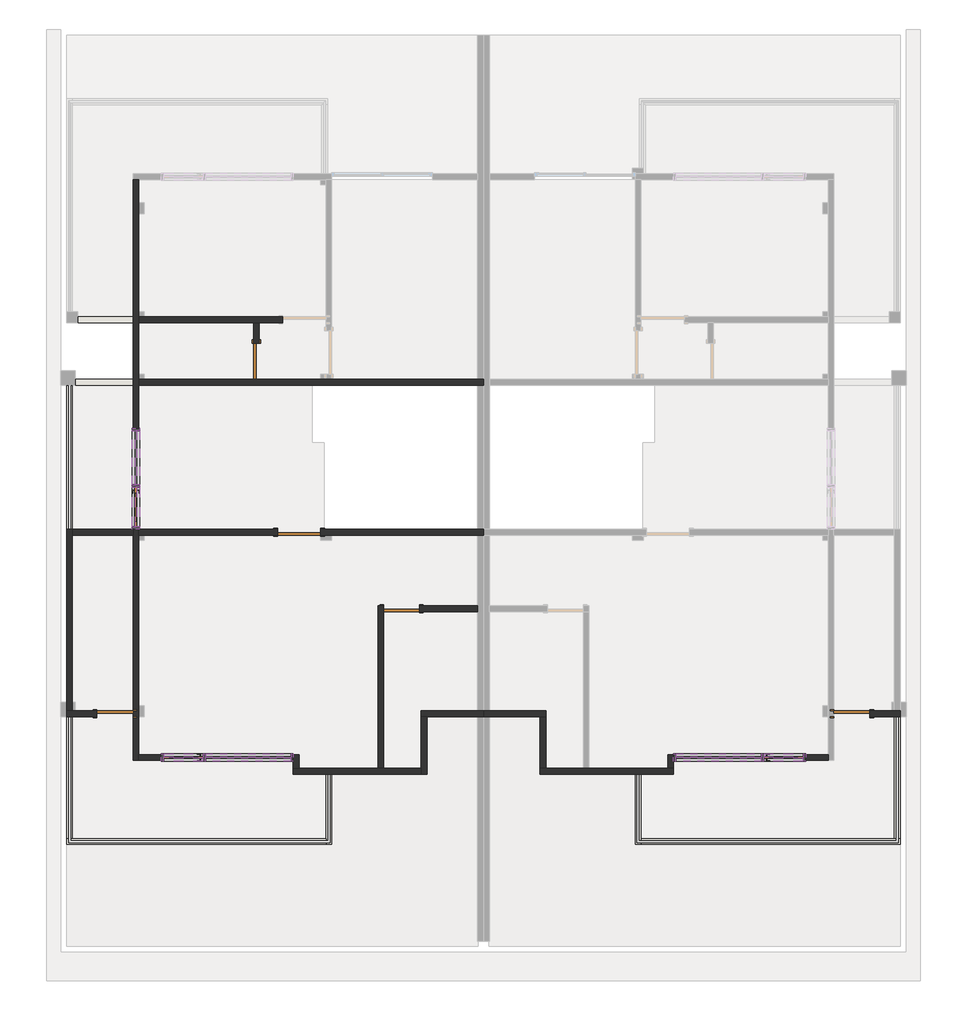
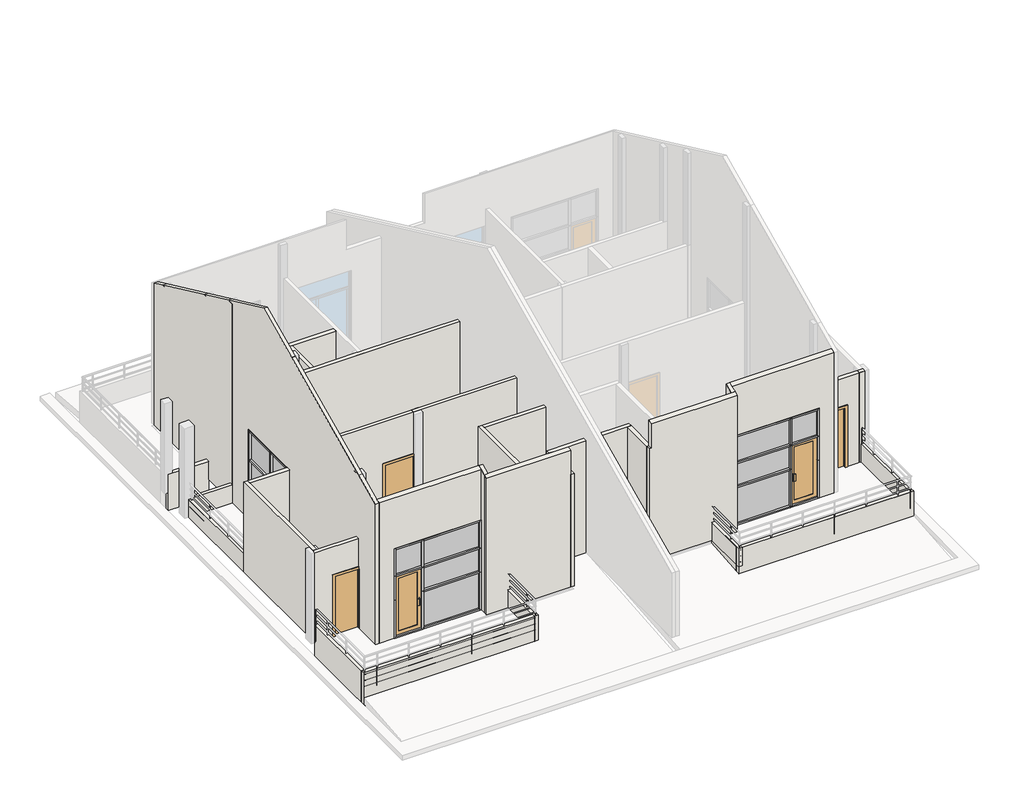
# One storey, part 1 of 6: 44 members, 33 walls, 11 plates, 8 doors.
"""IFC4 building model written with IfcOpenShell, lengths in millimetres."""

from ifc_helpers import new_model, si_unit, frame, origin, place, context, project, spatial, polyline, outline, extrude, faceted_brep, transform, mapped, element, save
from components import m1_203bd3fe, m3_b9aba31e, m3_11f5f102, mlc4_8405c642, mlc4_63d6f031, mlc5_c38d646a, member_50_x_150mm_d1afb885, member_50_x_150mm_4883e7f1, member_50_x_150mm_9c26cac3, member_50_x_150mm_dc49d761, member_50_x_150mm_ee2168e0, member_50_x_150mm_479bf81d, member_50_x_150mm_3493d22a, member_50_x_150mm_14f10ac7, member_50_x_150mm_886af683, member_50_x_150mm_6ffebc0f, member_50_x_150mm_60451361, member_50_x_150mm_3a148f0f, member_50_x_150mm_f0098caa, member_50_x_150mm_bbc1c4ea, member_50_x_150mm_eeb88b28, member_50_x_150mm_aa47fe12, plate_036381eb, plate_f968a0e6, plate_c850eb1c, plate_985eec47, plate_60d2a096, plate_dccf6ea0, plate_e95abe67

model = new_model("IFC4")

# Units and contexts
model_context = context("Model", 3, world=origin())
ifc_project = project(units=[si_unit("LENGTHUNIT", "METRE", prefix="MILLI")], contexts=[model_context])

# Site, building, storey
site = spatial("IfcSite", under=ifc_project)
building = spatial("IfcBuilding", under=site)
storey = spatial("IfcBuildingStorey", under=building, Name="标高 2", Elevation=3900.0)

# Doors
placement = place(None, origin())
m1_shape = m1_203bd3fe(model_context)
element("IfcDoor", 1, ObjectType="单扇 - 与墙齐 : M1", at=placement, inside=storey, context=model_context, shape_type="MappedRepresentation", body=[
    mapped(m1_shape, transform((-2985.3991115, 3511.4406182, 3900.0), x_axis=(1.0, 0.0, 0.0), y_axis=(0.0, 1.0, 0.0), z_axis=(0.0, 0.0, 1.0))),
])
m3_shape = m3_b9aba31e(model_context)
element("IfcDoor", 2, ObjectType="单扇 - 与墙齐 : M3", at=placement, inside=storey, context=model_context, shape_type="MappedRepresentation", body=[
    mapped(m3_shape, transform((-850.3991115, 1916.4406182, 3900.0), x_axis=(-1.0, 0.0, 0.0), y_axis=(0.0, -1.0, 0.0), z_axis=(0.0, 0.0, 1.0))),
])
element("IfcDoor", 3, ObjectType="单扇 - 与墙齐 : M3", at=placement, inside=storey, context=model_context, shape_type="MappedRepresentation", body=[
    mapped(m3_shape, transform((-6820.3991115, -268.5593818, 3900.0), x_axis=(1.0, 0.0, 0.0), y_axis=(0.0, 1.0, 0.0), z_axis=(0.0, 0.0, 1.0))),
])
m3_2_shape = m3_11f5f102(model_context)
element("IfcDoor", 4, ObjectType="单扇 - 与墙齐 : M3", at=placement, inside=storey, context=model_context, shape_type="MappedRepresentation", body=[
    mapped(m3_2_shape, transform((-3875.3991115, 7066.4406182, 3900.0), x_axis=(0.0, -1.0, 0.0), y_axis=(1.0, 0.0, 0.0), z_axis=(0.0, 0.0, 1.0))),
])
element("IfcDoor", 5, ObjectType="单扇 - 与墙齐 : M3", at=placement, inside=storey, context=model_context, shape_type="MappedRepresentation", body=[
    mapped(m3_2_shape, transform((8529.6008885, -268.5593818, 3900.0), x_axis=(-1.0, 0.0, 0.0), y_axis=(0.0, -1.0, 0.0), z_axis=(0.0, 0.0, 1.0))),
])
mlc4_shape = mlc4_8405c642(model_context)
element("IfcDoor", 6, ObjectType="门嵌板_单开门2 : MLC4", at=placement, inside=storey, context=model_context, shape_type="MappedRepresentation", body=[
    mapped(mlc4_shape, transform((-5392.8991115, -1178.5593818, 3950.0), x_axis=(-1.0, 0.0, 0.0), y_axis=(0.0, -1.0, 0.0), z_axis=(0.0, 0.0, 1.0))),
])
mlc4_2_shape = mlc4_63d6f031(model_context)
element("IfcDoor", 7, ObjectType="门嵌板_单开门2 : MLC4", at=placement, inside=storey, context=model_context, shape_type="MappedRepresentation", body=[
    mapped(mlc4_2_shape, transform((7102.1008885, -1178.5593818, 3950.0), x_axis=(1.0, 0.0, 0.0), y_axis=(0.0, 1.0, 0.0), z_axis=(0.0, 0.0, 1.0))),
])
mlc5_shape = mlc5_c38d646a(model_context)
element("IfcDoor", 8, ObjectType="门嵌板_单开门2 : MLC5", at=placement, inside=storey, context=model_context, shape_type="MappedRepresentation", body=[
    mapped(mlc5_shape, transform((-6385.3991115, 4033.9406182, 3950.0), x_axis=(0.0, -1.0, 0.0), y_axis=(1.0, 0.0, 0.0), z_axis=(0.0, 0.0, 1.0))),
])

# Members
member_50_x_150mm_shape = member_50_x_150mm_d1afb885(model_context)
element("IfcMember", 9, ObjectType="矩形竖梃 : 50 x 150mm", at=placement, inside=storey, context=model_context, shape_type="MappedRepresentation", body=[
    mapped(member_50_x_150mm_shape, transform((-3155.3991115, -1178.5593818, 6900.0), x_axis=(0.0, 0.0, 1.0), y_axis=(0.0, -1.0, 0.0), z_axis=(1.0, 0.0, 0.0))),
])
member_50_x_150mm_2_shape = member_50_x_150mm_4883e7f1(model_context)
element("IfcMember", 10, ObjectType="矩形竖梃 : 50 x 150mm", at=placement, inside=storey, context=model_context, shape_type="MappedRepresentation", body=[
    mapped(member_50_x_150mm_2_shape, transform((-5805.3991115, -1178.5593818, 3900.0), x_axis=(0.0, 0.0, -1.0), y_axis=(0.0, -1.0, 0.0), z_axis=(-1.0, 0.0, 0.0))),
])
element("IfcMember", 11, ObjectType="矩形竖梃 : 50 x 150mm", at=placement, inside=storey, context=model_context, shape_type="MappedRepresentation", body=[
    mapped(member_50_x_150mm_2_shape, transform((-6385.3991115, 3621.4406182, 3900.0), x_axis=(0.0, 0.0, -1.0), y_axis=(1.0, 0.0, 0.0), z_axis=(0.0, -1.0, 0.0))),
])
member_50_x_150mm_3_shape = member_50_x_150mm_9c26cac3(model_context)
element("IfcMember", 12, ObjectType="矩形竖梃 : 50 x 150mm", at=placement, inside=storey, context=model_context, shape_type="MappedRepresentation", body=[
    mapped(member_50_x_150mm_3_shape, transform((-4980.3991115, -1178.5593818, 5976.0), x_axis=(0.0, 0.0, 1.0), y_axis=(0.0, -1.0, 0.0), z_axis=(1.0, 0.0, 0.0))),
])
element("IfcMember", 13, ObjectType="矩形竖梃 : 50 x 150mm", at=placement, inside=storey, context=model_context, shape_type="MappedRepresentation", body=[
    mapped(member_50_x_150mm_3_shape, transform((-6385.3991115, 4446.4406182, 5900.0), x_axis=(0.0, 0.0, 1.0), y_axis=(1.0, 0.0, 0.0), z_axis=(0.0, 1.0, 0.0))),
])
member_50_x_150mm_4_shape = member_50_x_150mm_dc49d761(model_context)
element("IfcMember", 14, ObjectType="矩形竖梃 : 50 x 150mm", at=placement, inside=storey, context=model_context, shape_type="MappedRepresentation", body=[
    mapped(member_50_x_150mm_4_shape, transform((-3155.3991115, -1178.5593818, 5976.0), x_axis=(0.0, 0.0, 1.0), y_axis=(0.0, -1.0, 0.0), z_axis=(1.0, 0.0, 0.0))),
])
element("IfcMember", 15, ObjectType="矩形竖梃 : 50 x 150mm", at=placement, inside=storey, context=model_context, shape_type="MappedRepresentation", body=[
    mapped(member_50_x_150mm_4_shape, transform((-3155.3991115, -1178.5593818, 5176.0), x_axis=(0.0, 0.0, 1.0), y_axis=(0.0, -1.0, 0.0), z_axis=(1.0, 0.0, 0.0))),
])
element("IfcMember", 16, ObjectType="矩形竖梃 : 50 x 150mm", at=placement, inside=storey, context=model_context, shape_type="MappedRepresentation", body=[
    mapped(member_50_x_150mm_shape, transform((-4930.3991115, -1178.5593818, 3900.0), x_axis=(0.0, 0.0, -1.0), y_axis=(0.0, -1.0, 0.0), z_axis=(-1.0, 0.0, 0.0))),
])
element("IfcMember", 17, ObjectType="矩形竖梃 : 50 x 150mm", at=placement, inside=storey, context=model_context, shape_type="MappedRepresentation", body=[
    mapped(member_50_x_150mm_2_shape, transform((-4980.3991115, -1178.5593818, 6900.0), x_axis=(0.0, 0.0, 1.0), y_axis=(0.0, -1.0, 0.0), z_axis=(1.0, 0.0, 0.0))),
])
element("IfcMember", 18, ObjectType="矩形竖梃 : 50 x 150mm", at=placement, inside=storey, context=model_context, shape_type="MappedRepresentation", body=[
    mapped(member_50_x_150mm_2_shape, transform((-6385.3991115, 4446.4406182, 6900.0), x_axis=(0.0, 0.0, 1.0), y_axis=(1.0, 0.0, 0.0), z_axis=(0.0, 1.0, 0.0))),
])
member_50_x_150mm_5_shape = member_50_x_150mm_ee2168e0(model_context)
element("IfcMember", 19, ObjectType="矩形竖梃 : 50 x 150mm", at=placement, inside=storey, context=model_context, shape_type="MappedRepresentation", body=[
    mapped(member_50_x_150mm_5_shape, transform((-4955.3991115, -1178.5593818, 5976.0), x_axis=(1.0, 0.0, 0.0), y_axis=(0.0, -1.0, 0.0), z_axis=(0.0, 0.0, -1.0))),
])
member_50_x_150mm_6_shape = member_50_x_150mm_479bf81d(model_context)
element("IfcMember", 20, ObjectType="矩形竖梃 : 50 x 150mm", at=placement, inside=storey, context=model_context, shape_type="MappedRepresentation", body=[
    mapped(member_50_x_150mm_6_shape, transform((-5855.3991115, -1178.5593818, 6900.0), x_axis=(-1.0, 0.0, 0.0), y_axis=(0.0, -1.0, 0.0), z_axis=(0.0, 0.0, 1.0))),
])
element("IfcMember", 21, ObjectType="矩形竖梃 : 50 x 150mm", at=placement, inside=storey, context=model_context, shape_type="MappedRepresentation", body=[
    mapped(member_50_x_150mm_6_shape, transform((-3105.3991115, -1178.5593818, 5976.0), x_axis=(1.0, 0.0, 0.0), y_axis=(0.0, -1.0, 0.0), z_axis=(0.0, 0.0, -1.0))),
])
member_50_x_150mm_7_shape = member_50_x_150mm_3493d22a(model_context)
element("IfcMember", 22, ObjectType="矩形竖梃 : 50 x 150mm", at=placement, inside=storey, context=model_context, shape_type="MappedRepresentation", body=[
    mapped(member_50_x_150mm_7_shape, transform((-4955.3991115, -1178.5593818, 3900.0), x_axis=(1.0, 0.0, 0.0), y_axis=(0.0, -1.0, 0.0), z_axis=(0.0, 0.0, -1.0))),
])
member_50_x_150mm_8_shape = member_50_x_150mm_14f10ac7(model_context)
element("IfcMember", 23, ObjectType="矩形竖梃 : 50 x 150mm", at=placement, inside=storey, context=model_context, shape_type="MappedRepresentation", body=[
    mapped(member_50_x_150mm_8_shape, transform((-4955.3991115, -1178.5593818, 5176.0), x_axis=(1.0, 0.0, 0.0), y_axis=(0.0, -1.0, 0.0), z_axis=(0.0, 0.0, -1.0))),
])
member_50_x_150mm_9_shape = member_50_x_150mm_886af683(model_context)
element("IfcMember", 24, ObjectType="矩形竖梃 : 50 x 150mm", at=placement, inside=storey, context=model_context, shape_type="MappedRepresentation", body=[
    mapped(member_50_x_150mm_9_shape, transform((-3105.3991115, -1178.5593818, 3900.0), x_axis=(1.0, 0.0, 0.0), y_axis=(0.0, -1.0, 0.0), z_axis=(0.0, 0.0, -1.0))),
])
member_50_x_150mm_10_shape = member_50_x_150mm_6ffebc0f(model_context)
element("IfcMember", 25, ObjectType="矩形竖梃 : 50 x 150mm", at=placement, inside=storey, context=model_context, shape_type="MappedRepresentation", body=[
    mapped(member_50_x_150mm_10_shape, transform((-3105.3991115, -1178.5593818, 5176.0), x_axis=(1.0, 0.0, 0.0), y_axis=(0.0, -1.0, 0.0), z_axis=(0.0, 0.0, -1.0))),
])
element("IfcMember", 26, ObjectType="矩形竖梃 : 50 x 150mm", at=placement, inside=storey, context=model_context, shape_type="MappedRepresentation", body=[
    mapped(member_50_x_150mm_10_shape, transform((-5855.3991115, -1178.5593818, 5976.0), x_axis=(-1.0, 0.0, 0.0), y_axis=(0.0, -1.0, 0.0), z_axis=(0.0, 0.0, 1.0))),
])
element("IfcMember", 27, ObjectType="矩形竖梃 : 50 x 150mm", at=placement, inside=storey, context=model_context, shape_type="MappedRepresentation", body=[
    mapped(member_50_x_150mm_9_shape, transform((-5855.3991115, -1178.5593818, 5176.0), x_axis=(-1.0, 0.0, 0.0), y_axis=(0.0, -1.0, 0.0), z_axis=(0.0, 0.0, 1.0))),
])
member_50_x_150mm_11_shape = member_50_x_150mm_60451361(model_context)
element("IfcMember", 28, ObjectType="矩形竖梃 : 50 x 150mm", at=placement, inside=storey, context=model_context, shape_type="MappedRepresentation", body=[
    mapped(member_50_x_150mm_11_shape, transform((-6385.3991115, 5621.4406182, 6900.0), x_axis=(0.0, 0.0, 1.0), y_axis=(1.0, 0.0, 0.0), z_axis=(0.0, 1.0, 0.0))),
])
member_50_x_150mm_12_shape = member_50_x_150mm_3a148f0f(model_context)
element("IfcMember", 29, ObjectType="矩形竖梃 : 50 x 150mm", at=placement, inside=storey, context=model_context, shape_type="MappedRepresentation", body=[
    mapped(member_50_x_150mm_12_shape, transform((-6385.3991115, 4471.4406182, 3900.0), x_axis=(0.0, 1.0, 0.0), y_axis=(1.0, 0.0, 0.0), z_axis=(0.0, 0.0, -1.0))),
])
member_50_x_150mm_13_shape = member_50_x_150mm_f0098caa(model_context)
element("IfcMember", 30, ObjectType="矩形竖梃 : 50 x 150mm", at=placement, inside=storey, context=model_context, shape_type="MappedRepresentation", body=[
    mapped(member_50_x_150mm_13_shape, transform((-6385.3991115, 5621.4406182, 5900.0), x_axis=(0.0, 0.0, 1.0), y_axis=(1.0, 0.0, 0.0), z_axis=(0.0, 1.0, 0.0))),
])
element("IfcMember", 31, ObjectType="矩形竖梃 : 50 x 150mm", at=placement, inside=storey, context=model_context, shape_type="MappedRepresentation", body=[
    mapped(member_50_x_150mm_11_shape, transform((-6385.3991115, 4496.4406182, 3900.0), x_axis=(0.0, 0.0, -1.0), y_axis=(1.0, 0.0, 0.0), z_axis=(0.0, -1.0, 0.0))),
])
member_50_x_150mm_14_shape = member_50_x_150mm_bbc1c4ea(model_context)
element("IfcMember", 32, ObjectType="矩形竖梃 : 50 x 150mm", at=placement, inside=storey, context=model_context, shape_type="MappedRepresentation", body=[
    mapped(member_50_x_150mm_14_shape, transform((-6385.3991115, 4471.4406182, 5900.0), x_axis=(0.0, 1.0, 0.0), y_axis=(1.0, 0.0, 0.0), z_axis=(0.0, 0.0, -1.0))),
])
member_50_x_150mm_15_shape = member_50_x_150mm_eeb88b28(model_context)
element("IfcMember", 33, ObjectType="矩形竖梃 : 50 x 150mm", at=placement, inside=storey, context=model_context, shape_type="MappedRepresentation", body=[
    mapped(member_50_x_150mm_15_shape, transform((-6385.3991115, 3571.4406182, 6900.0), x_axis=(0.0, -1.0, 0.0), y_axis=(1.0, 0.0, 0.0), z_axis=(0.0, 0.0, 1.0))),
])
member_50_x_150mm_16_shape = member_50_x_150mm_aa47fe12(model_context)
element("IfcMember", 34, ObjectType="矩形竖梃 : 50 x 150mm", at=placement, inside=storey, context=model_context, shape_type="MappedRepresentation", body=[
    mapped(member_50_x_150mm_16_shape, transform((-6385.3991115, 5671.4406182, 3900.0), x_axis=(0.0, 1.0, 0.0), y_axis=(1.0, 0.0, 0.0), z_axis=(0.0, 0.0, -1.0))),
])
element("IfcMember", 35, ObjectType="矩形竖梃 : 50 x 150mm", at=placement, inside=storey, context=model_context, shape_type="MappedRepresentation", body=[
    mapped(member_50_x_150mm_15_shape, transform((-6385.3991115, 5671.4406182, 5900.0), x_axis=(0.0, 1.0, 0.0), y_axis=(1.0, 0.0, 0.0), z_axis=(0.0, 0.0, -1.0))),
])
element("IfcMember", 36, ObjectType="矩形竖梃 : 50 x 150mm", at=placement, inside=storey, context=model_context, shape_type="MappedRepresentation", body=[
    mapped(member_50_x_150mm_16_shape, transform((-6385.3991115, 3571.4406182, 5900.0), x_axis=(0.0, -1.0, 0.0), y_axis=(1.0, 0.0, 0.0), z_axis=(0.0, 0.0, 1.0))),
])
element("IfcMember", 37, ObjectType="矩形竖梃 : 50 x 150mm", at=placement, inside=storey, context=model_context, shape_type="MappedRepresentation", body=[
    mapped(member_50_x_150mm_shape, transform((4864.6008885, -1178.5593818, 6900.0), x_axis=(0.0, 0.0, 1.0), y_axis=(0.0, 1.0, 0.0), z_axis=(-1.0, 0.0, 0.0))),
])
element("IfcMember", 38, ObjectType="矩形竖梃 : 50 x 150mm", at=placement, inside=storey, context=model_context, shape_type="MappedRepresentation", body=[
    mapped(member_50_x_150mm_2_shape, transform((7514.6008885, -1178.5593818, 3900.0), x_axis=(0.0, 0.0, -1.0), y_axis=(0.0, 1.0, 0.0), z_axis=(1.0, 0.0, 0.0))),
])
element("IfcMember", 39, ObjectType="矩形竖梃 : 50 x 150mm", at=placement, inside=storey, context=model_context, shape_type="MappedRepresentation", body=[
    mapped(member_50_x_150mm_7_shape, transform((6664.6008885, -1178.5593818, 3900.0), x_axis=(-1.0, 0.0, 0.0), y_axis=(0.0, 1.0, 0.0), z_axis=(0.0, 0.0, -1.0))),
])
element("IfcMember", 40, ObjectType="矩形竖梃 : 50 x 150mm", at=placement, inside=storey, context=model_context, shape_type="MappedRepresentation", body=[
    mapped(member_50_x_150mm_3_shape, transform((6689.6008885, -1178.5593818, 5976.0), x_axis=(0.0, 0.0, 1.0), y_axis=(0.0, 1.0, 0.0), z_axis=(-1.0, 0.0, 0.0))),
])
element("IfcMember", 41, ObjectType="矩形竖梃 : 50 x 150mm", at=placement, inside=storey, context=model_context, shape_type="MappedRepresentation", body=[
    mapped(member_50_x_150mm_4_shape, transform((4864.6008885, -1178.5593818, 5976.0), x_axis=(0.0, 0.0, 1.0), y_axis=(0.0, 1.0, 0.0), z_axis=(-1.0, 0.0, 0.0))),
])
element("IfcMember", 42, ObjectType="矩形竖梃 : 50 x 150mm", at=placement, inside=storey, context=model_context, shape_type="MappedRepresentation", body=[
    mapped(member_50_x_150mm_4_shape, transform((4864.6008885, -1178.5593818, 5176.0), x_axis=(0.0, 0.0, 1.0), y_axis=(0.0, 1.0, 0.0), z_axis=(-1.0, 0.0, 0.0))),
])
element("IfcMember", 43, ObjectType="矩形竖梃 : 50 x 150mm", at=placement, inside=storey, context=model_context, shape_type="MappedRepresentation", body=[
    mapped(member_50_x_150mm_shape, transform((6639.6008885, -1178.5593818, 3900.0), x_axis=(0.0, 0.0, -1.0), y_axis=(0.0, 1.0, 0.0), z_axis=(1.0, 0.0, 0.0))),
])
element("IfcMember", 44, ObjectType="矩形竖梃 : 50 x 150mm", at=placement, inside=storey, context=model_context, shape_type="MappedRepresentation", body=[
    mapped(member_50_x_150mm_2_shape, transform((6689.6008885, -1178.5593818, 6900.0), x_axis=(0.0, 0.0, 1.0), y_axis=(0.0, 1.0, 0.0), z_axis=(-1.0, 0.0, 0.0))),
])
element("IfcMember", 45, ObjectType="矩形竖梃 : 50 x 150mm", at=placement, inside=storey, context=model_context, shape_type="MappedRepresentation", body=[
    mapped(member_50_x_150mm_5_shape, transform((6664.6008885, -1178.5593818, 5976.0), x_axis=(-1.0, 0.0, 0.0), y_axis=(0.0, 1.0, 0.0), z_axis=(0.0, 0.0, -1.0))),
])
element("IfcMember", 46, ObjectType="矩形竖梃 : 50 x 150mm", at=placement, inside=storey, context=model_context, shape_type="MappedRepresentation", body=[
    mapped(member_50_x_150mm_8_shape, transform((6664.6008885, -1178.5593818, 5176.0), x_axis=(-1.0, 0.0, 0.0), y_axis=(0.0, 1.0, 0.0), z_axis=(0.0, 0.0, -1.0))),
])
element("IfcMember", 47, ObjectType="矩形竖梃 : 50 x 150mm", at=placement, inside=storey, context=model_context, shape_type="MappedRepresentation", body=[
    mapped(member_50_x_150mm_6_shape, transform((7564.6008885, -1178.5593818, 6900.0), x_axis=(1.0, 0.0, 0.0), y_axis=(0.0, 1.0, 0.0), z_axis=(0.0, 0.0, 1.0))),
])
element("IfcMember", 48, ObjectType="矩形竖梃 : 50 x 150mm", at=placement, inside=storey, context=model_context, shape_type="MappedRepresentation", body=[
    mapped(member_50_x_150mm_9_shape, transform((4814.6008885, -1178.5593818, 3900.0), x_axis=(-1.0, 0.0, 0.0), y_axis=(0.0, 1.0, 0.0), z_axis=(0.0, 0.0, -1.0))),
])
element("IfcMember", 49, ObjectType="矩形竖梃 : 50 x 150mm", at=placement, inside=storey, context=model_context, shape_type="MappedRepresentation", body=[
    mapped(member_50_x_150mm_6_shape, transform((4814.6008885, -1178.5593818, 5976.0), x_axis=(-1.0, 0.0, 0.0), y_axis=(0.0, 1.0, 0.0), z_axis=(0.0, 0.0, -1.0))),
])
element("IfcMember", 50, ObjectType="矩形竖梃 : 50 x 150mm", at=placement, inside=storey, context=model_context, shape_type="MappedRepresentation", body=[
    mapped(member_50_x_150mm_10_shape, transform((7564.6008885, -1178.5593818, 5976.0), x_axis=(1.0, 0.0, 0.0), y_axis=(0.0, 1.0, 0.0), z_axis=(0.0, 0.0, 1.0))),
])
element("IfcMember", 51, ObjectType="矩形竖梃 : 50 x 150mm", at=placement, inside=storey, context=model_context, shape_type="MappedRepresentation", body=[
    mapped(member_50_x_150mm_10_shape, transform((4814.6008885, -1178.5593818, 5176.0), x_axis=(-1.0, 0.0, 0.0), y_axis=(0.0, 1.0, 0.0), z_axis=(0.0, 0.0, -1.0))),
])
element("IfcMember", 52, ObjectType="矩形竖梃 : 50 x 150mm", at=placement, inside=storey, context=model_context, shape_type="MappedRepresentation", body=[
    mapped(member_50_x_150mm_9_shape, transform((7564.6008885, -1178.5593818, 5176.0), x_axis=(1.0, 0.0, 0.0), y_axis=(0.0, 1.0, 0.0), z_axis=(0.0, 0.0, 1.0))),
])

# Plates
plate_shape = plate_036381eb(model_context)
element("IfcPlate", 53, ObjectType="系统嵌板 : 玻璃", at=placement, inside=storey, context=model_context, shape_type="MappedRepresentation", body=[
    mapped(plate_shape, transform((-5392.8991115, -1178.5593818, 6001.0), x_axis=(1.0, 0.0, 0.0), y_axis=(0.0, 1.0, 0.0), z_axis=(0.0, 0.0, 1.0))),
])
plate_2_shape = plate_f968a0e6(model_context)
element("IfcPlate", 54, ObjectType="系统嵌板 : 玻璃", at=placement, inside=storey, context=model_context, shape_type="MappedRepresentation", body=[
    mapped(plate_2_shape, transform((-4042.8991115, -1178.5593818, 6001.0), x_axis=(1.0, 0.0, 0.0), y_axis=(0.0, 1.0, 0.0), z_axis=(0.0, 0.0, 1.0))),
])
plate_3_shape = plate_c850eb1c(model_context)
element("IfcPlate", 55, ObjectType="系统嵌板 : 玻璃", at=placement, inside=storey, context=model_context, shape_type="MappedRepresentation", body=[
    mapped(plate_3_shape, transform((-4042.8991115, -1178.5593818, 3950.0), x_axis=(1.0, 0.0, 0.0), y_axis=(0.0, 1.0, 0.0), z_axis=(0.0, 0.0, 1.0))),
])
plate_4_shape = plate_985eec47(model_context)
element("IfcPlate", 56, ObjectType="系统嵌板 : 玻璃", at=placement, inside=storey, context=model_context, shape_type="MappedRepresentation", body=[
    mapped(plate_4_shape, transform((-4042.8991115, -1178.5593818, 5201.0), x_axis=(1.0, 0.0, 0.0), y_axis=(0.0, 1.0, 0.0), z_axis=(0.0, 0.0, 1.0))),
])
plate_5_shape = plate_60d2a096(model_context)
element("IfcPlate", 57, ObjectType="系统嵌板 : 玻璃", at=placement, inside=storey, context=model_context, shape_type="MappedRepresentation", body=[
    mapped(plate_5_shape, transform((-6385.3991115, 5058.9406182, 3950.0), x_axis=(0.0, 1.0, 0.0), y_axis=(-1.0, 0.0, 0.0), z_axis=(0.0, 0.0, 1.0))),
])
plate_6_shape = plate_dccf6ea0(model_context)
element("IfcPlate", 58, ObjectType="系统嵌板 : 玻璃", at=placement, inside=storey, context=model_context, shape_type="MappedRepresentation", body=[
    mapped(plate_6_shape, transform((-6385.3991115, 4033.9406182, 5925.0), x_axis=(0.0, 1.0, 0.0), y_axis=(-1.0, 0.0, 0.0), z_axis=(0.0, 0.0, 1.0))),
])
plate_7_shape = plate_e95abe67(model_context)
element("IfcPlate", 59, ObjectType="系统嵌板 : 玻璃", at=placement, inside=storey, context=model_context, shape_type="MappedRepresentation", body=[
    mapped(plate_7_shape, transform((-6385.3991115, 5058.9406182, 5925.0), x_axis=(0.0, 1.0, 0.0), y_axis=(-1.0, 0.0, 0.0), z_axis=(0.0, 0.0, 1.0))),
])
element("IfcPlate", 60, ObjectType="系统嵌板 : 玻璃", at=placement, inside=storey, context=model_context, shape_type="MappedRepresentation", body=[
    mapped(plate_3_shape, transform((5752.1008885, -1178.5593818, 3950.0), x_axis=(-1.0, 0.0, 0.0), y_axis=(0.0, -1.0, 0.0), z_axis=(0.0, 0.0, 1.0))),
])
element("IfcPlate", 61, ObjectType="系统嵌板 : 玻璃", at=placement, inside=storey, context=model_context, shape_type="MappedRepresentation", body=[
    mapped(plate_shape, transform((7102.1008885, -1178.5593818, 6001.0), x_axis=(-1.0, 0.0, 0.0), y_axis=(0.0, -1.0, 0.0), z_axis=(0.0, 0.0, 1.0))),
])
element("IfcPlate", 62, ObjectType="系统嵌板 : 玻璃", at=placement, inside=storey, context=model_context, shape_type="MappedRepresentation", body=[
    mapped(plate_2_shape, transform((5752.1008885, -1178.5593818, 6001.0), x_axis=(-1.0, 0.0, 0.0), y_axis=(0.0, -1.0, 0.0), z_axis=(0.0, 0.0, 1.0))),
])
element("IfcPlate", 63, ObjectType="系统嵌板 : 玻璃", at=placement, inside=storey, context=model_context, shape_type="MappedRepresentation", body=[
    mapped(plate_4_shape, transform((5752.1008885, -1178.5593818, 5201.0), x_axis=(-1.0, 0.0, 0.0), y_axis=(0.0, -1.0, 0.0), z_axis=(0.0, 0.0, 1.0))),
])

# Walls
element("IfcWall", 64, ObjectType="考试墙体120", at=placement, inside=storey, context=model_context, shape_type="Brep", body=[
    faceted_brep([(854.6008885, -208.5593818, 3900.0), (-445.3991115, -208.5593818, 3900.0), (-445.3991115, -208.5593818, 7650.0), (854.6008885, -208.5593818, 7650.0), (854.6008885, -328.5593818, 3900.0), (854.6008885, -328.5593818, 7650.0), (-325.3991115, -328.5593818, 7650.0), (-445.3991115, -328.5593818, 7650.0), (-445.3991115, -328.5593818, 3900.0), (-325.3991115, -328.5593818, 3900.0)], [[[0, 1, 2, 3]], [[4, 5, 6, 7, 8, 9]], [[1, 0, 4, 9, 8]], [[3, 2, 7, 6, 5]], [[2, 1, 8, 7]], [[0, 3, 5, 4]]]),
])
element("IfcWall", 65, ObjectType="考试墙体120", at=placement, inside=storey, context=model_context, shape_type="Brep", body=[
    faceted_brep([(-6325.3991115, 10851.4406182, 3900.0), (-6325.3991115, 10851.4406182, 8645.1424123), (-6325.3991115, 4871.4406182, 11433.6622081), (-6325.3991115, -1118.5593818, 8640.4793358), (-6325.3991115, -1238.5593818, 8584.5224168), (-6325.3991115, -1238.5593818, 3900.0), (-6325.3991115, -1118.5593818, 3900.0), (-6325.3991115, 3451.4406182, 3900.0), (-6325.3991115, 3571.4406182, 3900.0), (-6325.3991115, 3571.4406182, 6900.0), (-6325.3991115, 5671.4406182, 6900.0), (-6325.3991115, 5671.4406182, 3900.0), (-6325.3991115, 6571.4406182, 3900.0), (-6325.3991115, 6691.4406182, 3900.0), (-6325.3991115, 7871.4406182, 3900.0), (-6325.3991115, 7991.4406182, 3900.0), (-6445.3991115, 10851.4406182, 8645.1424123), (-6445.3991115, 10851.4406182, 3900.0), (-6445.3991115, 6691.4406182, 3900.0), (-6445.3991115, 6571.4406182, 3900.0), (-6445.3991115, 5671.4406182, 3900.0), (-6445.3991115, 5671.4406182, 6900.0), (-6445.3991115, 3571.4406182, 6900.0), (-6445.3991115, 3571.4406182, 3900.0), (-6445.3991115, 3451.4406182, 3900.0), (-6445.3991115, -1238.5593818, 3900.0), (-6445.3991115, -1238.5593818, 8584.5224168), (-6445.3991115, 4871.4406182, 11433.6622081)], [[[0, 1, 2, 3, 4, 5, 6, 7, 8, 9, 10, 11, 12, 13, 14, 15]], [[16, 17, 18, 19, 20, 21, 22, 23, 24, 25, 26, 27]], [[17, 0, 15, 14, 13, 12, 11, 20, 19, 18]], [[5, 25, 24, 23, 8, 7, 6]], [[1, 0, 17, 16]], [[5, 4, 26, 25]], [[22, 9, 8, 23]], [[9, 22, 21, 10]], [[10, 21, 20, 11]], [[26, 4, 3, 2, 27]], [[1, 16, 27, 2]]]),
])
element("IfcWall", 66, ObjectType="考试墙体120", at=placement, inside=storey, context=model_context, shape_type="Brep", body=[
    faceted_brep([(854.6008885, 6691.4406182, 3900.0), (-2305.3991115, 6691.4406182, 3900.0), (-2425.3991115, 6691.4406182, 3900.0), (-6325.3991115, 6691.4406182, 3900.0), (-6325.3991115, 6691.4406182, 7450.0), (-3935.3991115, 6691.4406182, 7450.0), (-3815.3991115, 6691.4406182, 7450.0), (-2425.3991115, 6691.4406182, 7450.0), (-2305.3991115, 6691.4406182, 7450.0), (854.6008885, 6691.4406182, 7450.0), (854.6008885, 6571.4406182, 3900.0), (854.6008885, 6571.4406182, 7450.0), (-6325.3991115, 6571.4406182, 7450.0), (-6325.3991115, 6571.4406182, 3900.0)], [[[0, 1, 2, 3, 4, 5, 6, 7, 8, 9]], [[10, 11, 12, 13]], [[3, 2, 1, 0, 10, 13]], [[0, 9, 11, 10]], [[4, 3, 13, 12]], [[9, 8, 7, 6, 5, 4, 12, 11]]]),
])
element("IfcWall", 67, ObjectType="考试墙体120", at=placement, inside=storey, context=model_context, shape_type="Brep", body=[
    faceted_brep([(854.6008885, 3571.4406182, 3900.0), (-2535.3991115, 3571.4406182, 3900.0), (-2535.3991115, 3571.4406182, 6000.0), (-3435.3991115, 3571.4406182, 6000.0), (-3435.3991115, 3571.4406182, 3900.0), (-6325.3991115, 3571.4406182, 3900.0), (-6325.3991115, 3571.4406182, 6900.0), (-6325.3991115, 3571.4406182, 7450.0), (854.6008885, 3571.4406182, 7450.0), (-2535.3991115, 3451.4406182, 6000.0), (-2535.3991115, 3451.4406182, 3900.0), (854.6008885, 3451.4406182, 3900.0), (854.6008885, 3451.4406182, 7450.0), (-6325.3991115, 3451.4406182, 7450.0), (-6325.3991115, 3451.4406182, 3900.0), (-3435.3991115, 3451.4406182, 3900.0), (-3435.3991115, 3451.4406182, 6000.0)], [[[0, 1, 2, 3, 4, 5, 6, 7, 8]], [[9, 10, 11, 12, 13, 14, 15, 16]], [[15, 14, 5, 4]], [[11, 10, 1, 0]], [[0, 8, 12, 11]], [[7, 6, 5, 14, 13]], [[2, 1, 10, 9]], [[3, 2, 9, 16]], [[4, 3, 16, 15]], [[8, 7, 13, 12]]]),
])
element("IfcWall", 68, ObjectType="考试墙体120", at=placement, inside=storey, context=model_context, shape_type="Brep", body=[
    faceted_brep([(-445.3991115, -328.5593818, 3900.0), (-445.3991115, -1403.5593818, 3900.0), (-445.3991115, -1523.5593818, 3900.0), (-445.3991115, -1523.5593818, 7650.0), (-445.3991115, -328.5593818, 7650.0), (-325.3991115, -328.5593818, 3900.0), (-325.3991115, -328.5593818, 7650.0), (-325.3991115, -1523.5593818, 7650.0), (-325.3991115, -1523.5593818, 3900.0)], [[[0, 1, 2, 3, 4]], [[5, 6, 7, 8]], [[2, 1, 0, 5, 8]], [[4, 3, 7, 6]], [[3, 2, 8, 7]], [[0, 4, 6, 5]]]),
])
element("IfcWall", 69, ObjectType="考试墙体120", at=placement, inside=storey, context=model_context, shape_type="Brep", body=[
    faceted_brep([(-445.3991115, -1403.5593818, 3900.0), (-1225.3991115, -1403.5593818, 3900.0), (-1345.3991115, -1403.5593818, 3900.0), (-2985.3991115, -1403.5593818, 3900.0), (-3105.3991115, -1403.5593818, 3900.0), (-3105.3991115, -1403.5593818, 8507.5816532), (-2985.3991115, -1403.5593818, 8507.5816532), (-445.3991115, -1403.5593818, 8507.5816532), (-445.3991115, -1523.5593818, 3900.0), (-445.3991115, -1523.5593818, 7650.0), (-445.3991115, -1523.5593818, 8451.6247342), (-3105.3991115, -1523.5593818, 8451.6247342), (-3105.3991115, -1523.5593818, 3900.0)], [[[0, 1, 2, 3, 4, 5, 6, 7]], [[8, 9, 10, 11, 12]], [[4, 3, 2, 1, 0, 8, 12]], [[0, 7, 10, 9, 8]], [[5, 4, 12, 11]], [[7, 6, 5, 11, 10]]]),
])
element("IfcWall", 70, ObjectType="考试墙体120", at=placement, inside=storey, context=model_context, shape_type="Brep", body=[
    faceted_brep([(-2985.3991115, -1403.5593818, 3900.0), (-2985.3991115, -1118.5593818, 3900.0), (-2985.3991115, -1118.5593818, 8640.4793358), (-2985.3991115, -1403.5593818, 8507.5816532), (-3105.3991115, -1403.5593818, 3900.0), (-3105.3991115, -1403.5593818, 8507.5816532), (-3105.3991115, -1238.5593818, 8584.5224168), (-3105.3991115, -1118.5593818, 8640.4793358), (-3105.3991115, -1118.5593818, 6900.0), (-3105.3991115, -1118.5593818, 3900.0)], [[[0, 1, 2, 3]], [[4, 5, 6, 7, 8, 9]], [[1, 0, 4, 9]], [[0, 3, 5, 4]], [[2, 1, 9, 8, 7]], [[3, 2, 7, 6, 5]]]),
])
element("IfcWall", 71, ObjectType="考试墙体120", at=placement, inside=storey, context=model_context, shape_type="Brep", body=[
    faceted_brep([(-6325.3991115, -1118.5593818, 3900.0), (-6325.3991115, -1118.5593818, 8640.4793358), (-3105.3991115, -1118.5593818, 8640.4793358), (-3105.3991115, -1118.5593818, 6900.0), (-5855.3991115, -1118.5593818, 6900.0), (-5855.3991115, -1118.5593818, 3900.0), (-6325.3991115, -1238.5593818, 8584.5224168), (-6325.3991115, -1238.5593818, 3900.0), (-5855.3991115, -1238.5593818, 3900.0), (-5855.3991115, -1238.5593818, 6900.0), (-3105.3991115, -1238.5593818, 6900.0), (-3105.3991115, -1238.5593818, 8584.5224168)], [[[0, 1, 2, 3, 4, 5]], [[6, 7, 8, 9, 10, 11]], [[7, 0, 5, 8]], [[2, 11, 10, 3]], [[1, 0, 7, 6]], [[4, 9, 8, 5]], [[9, 4, 3, 10]], [[2, 1, 6, 11]]]),
])
element("IfcWall", 72, ObjectType="考试墙体120", at=placement, inside=storey, context=model_context, shape_type="Brep", body=[
    faceted_brep([(-1225.3991115, -1403.5593818, 3900.0), (-1225.3991115, 1976.4406182, 3900.0), (-1225.3991115, 1976.4406182, 5900.0), (-1225.3991115, 1976.4406182, 7450.0), (-1225.3991115, 1856.4406182, 7450.0), (-1225.3991115, -1403.5593818, 7450.0), (-1345.3991115, -1403.5593818, 3900.0), (-1345.3991115, -1403.5593818, 7450.0), (-1345.3991115, 1976.4406182, 7450.0), (-1345.3991115, 1976.4406182, 3900.0)], [[[0, 1, 2, 3, 4, 5]], [[6, 7, 8, 9]], [[1, 0, 6, 9]], [[0, 5, 7, 6]], [[3, 2, 1, 9, 8]], [[5, 4, 3, 8, 7]]]),
])
element("IfcWall", 73, ObjectType="考试墙体120", at=placement, inside=storey, context=model_context, shape_type="SweptSolid", body=[
    extrude(outline(polyline([(3900.0, 734.6008885), (7450.0, 734.6008885), (7450.0, -1225.3991115), (5900.0, -1225.3991115), (5900.0, -475.3991115), (3900.0, -475.3991115), (3900.0, 734.6008885)])), frame((0.0, 1856.4406182, 0.0), z_axis=(0.0, 1.0, 0.0), x_axis=(0.0, 0.0, 1.0)), (0.0, 0.0, 1.0), 120.0),
])
element("IfcWall", 74, ObjectType="考试墙体120", at=placement, inside=storey, context=model_context, shape_type="Brep", body=[
    faceted_brep([(-6325.3991115, 7871.4406182, 7450.0), (-6325.3991115, 7871.4406182, 3900.0), (-3935.3991115, 7871.4406182, 3900.0), (-3815.3991115, 7871.4406182, 3900.0), (-3325.3991115, 7871.4406182, 3900.0), (-3325.3991115, 7871.4406182, 6000.0), (-2425.3991115, 7871.4406182, 6000.0), (-2425.3991115, 7871.4406182, 7450.0), (-3815.3991115, 7871.4406182, 7450.0), (-3935.3991115, 7871.4406182, 7450.0), (-6325.3991115, 7991.4406182, 3900.0), (-6325.3991115, 7991.4406182, 7450.0), (-2425.3991115, 7991.4406182, 7450.0), (-2425.3991115, 7991.4406182, 6000.0), (-3325.3991115, 7991.4406182, 6000.0), (-3325.3991115, 7991.4406182, 3900.0)], [[[0, 1, 2, 3, 4, 5, 6, 7, 8, 9]], [[10, 11, 12, 13, 14, 15]], [[1, 10, 15, 4, 3, 2]], [[1, 0, 11, 10]], [[12, 7, 6, 13]], [[5, 14, 13, 6]], [[14, 5, 4, 15]], [[0, 9, 8, 7, 12, 11]]]),
])
element("IfcWall", 75, ObjectType="考试墙体120", at=placement, inside=storey, context=model_context, shape_type="SweptSolid", body=[
    extrude(outline(polyline([(7871.4406182, 7450.0), (7871.4406182, 3900.0), (7441.4406182, 3900.0), (7441.4406182, 5900.0), (6691.4406182, 5900.0), (6691.4406182, 7450.0), (7871.4406182, 7450.0)])), frame((-3935.3991115, 0.0, 0.0), z_axis=(1.0, 0.0, 0.0), x_axis=(0.0, 1.0, 0.0)), (0.0, 0.0, 1.0), 120.0),
])
element("IfcWall", 76, ObjectType="考试墙体120", at=placement, inside=storey, context=model_context, shape_type="Brep", body=[
    faceted_brep([(-7825.3991115, -208.5593818, 3900.0), (-7825.3991115, -208.5593818, 6900.0), (-7705.3991115, -208.5593818, 6900.0), (-6445.3991115, -208.5593818, 6900.0), (-6445.3991115, -208.5593818, 5900.0), (-7195.3991115, -208.5593818, 5900.0), (-7195.3991115, -208.5593818, 3900.0), (-7705.3991115, -208.5593818, 3900.0), (-7825.3991115, -328.5593818, 6900.0), (-7825.3991115, -328.5593818, 4500.0), (-7825.3991115, -328.5593818, 3900.0), (-7195.3991115, -328.5593818, 3900.0), (-7195.3991115, -328.5593818, 5900.0), (-6445.3991115, -328.5593818, 5900.0), (-6445.3991115, -328.5593818, 6900.0)], [[[0, 1, 2, 3, 4, 5, 6, 7]], [[8, 9, 10, 11, 12, 13, 14]], [[10, 0, 7, 6, 11]], [[3, 14, 13, 4]], [[12, 5, 4, 13]], [[5, 12, 11, 6]], [[0, 10, 9, 8, 1]], [[3, 2, 1, 8, 14]]]),
])
element("IfcWall", 77, ObjectType="考试墙体120", at=placement, inside=storey, context=model_context, shape_type="Brep", body=[
    faceted_brep([(-7705.3991115, -208.5593818, 6900.0), (-7705.3991115, -208.5593818, 3900.0), (-7705.3991115, 3451.4406182, 3900.0), (-7705.3991115, 3571.4406182, 3900.0), (-7705.3991115, 3571.4406182, 4500.0), (-7705.3991115, 3571.4406182, 6900.0), (-7705.3991115, 3451.4406182, 6900.0), (-7825.3991115, -208.5593818, 3900.0), (-7825.3991115, -208.5593818, 6900.0), (-7825.3991115, 3571.4406182, 6900.0), (-7825.3991115, 3571.4406182, 4500.0), (-7825.3991115, 3571.4406182, 3900.0)], [[[0, 1, 2, 3, 4, 5, 6]], [[7, 8, 9, 10, 11]], [[3, 2, 1, 7, 11]], [[0, 8, 7, 1]], [[3, 11, 10, 9, 5, 4]], [[0, 6, 5, 9, 8]]]),
])
element("IfcWall", 78, ObjectType="考试墙体120", at=placement, inside=storey, context=model_context, shape_type="SweptSolid", body=[
    extrude(outline(polyline([(-6445.3991115, 3451.4406182), (-7705.3991115, 3451.4406182), (-7705.3991115, 3571.4406182), (-6445.3991115, 3571.4406182), (-6445.3991115, 3451.4406182)])), frame((0.0, 0.0, 3900.0), z_axis=(0.0, 0.0, 1.0), x_axis=(1.0, 0.0, 0.0)), (0.0, 0.0, 1.0), 3000.0),
])
element("IfcWall", 79, ObjectType="考试墙体120", at=placement, inside=storey, context=model_context, shape_type="Brep", body=[
    faceted_brep([(854.6008885, -328.5593818, 3900.0), (2034.6008885, -328.5593818, 3900.0), (2154.6008885, -328.5593818, 3900.0), (2154.6008885, -328.5593818, 7650.0), (2034.6008885, -328.5593818, 7650.0), (854.6008885, -328.5593818, 7650.0), (854.6008885, -208.5593818, 3900.0), (854.6008885, -208.5593818, 7650.0), (2154.6008885, -208.5593818, 7650.0), (2154.6008885, -208.5593818, 3900.0)], [[[0, 1, 2, 3, 4, 5]], [[6, 7, 8, 9]], [[2, 1, 0, 6, 9]], [[5, 4, 3, 8, 7]], [[0, 5, 7, 6]], [[3, 2, 9, 8]]]),
])
element("IfcWall", 80, ObjectType="考试墙体120", at=placement, inside=storey, context=model_context, shape_type="Brep", body=[
    faceted_brep([(9534.6008885, -328.5593818, 3900.0), (9534.6008885, -328.5593818, 4500.0), (9534.6008885, -328.5593818, 6900.0), (8154.6008885, -328.5593818, 6900.0), (8154.6008885, -328.5593818, 5900.0), (8904.6008885, -328.5593818, 5900.0), (8904.6008885, -328.5593818, 3900.0), (9414.6008885, -328.5593818, 3900.0), (9534.6008885, -208.5593818, 6900.0), (9534.6008885, -208.5593818, 3900.0), (9414.6008885, -208.5593818, 3900.0), (8904.6008885, -208.5593818, 3900.0), (8904.6008885, -208.5593818, 5900.0), (8154.6008885, -208.5593818, 5900.0), (8154.6008885, -208.5593818, 6900.0), (9414.6008885, -208.5593818, 6900.0)], [[[0, 1, 2, 3, 4, 5, 6, 7]], [[8, 9, 10, 11, 12, 13, 14, 15]], [[9, 0, 7, 6, 11, 10]], [[3, 14, 13, 4]], [[12, 5, 4, 13]], [[5, 12, 11, 6]], [[0, 9, 8, 2, 1]], [[3, 2, 8, 15, 14]]]),
])
element("IfcWall", 81, ObjectType="考试墙体120", at=placement, inside=storey, context=model_context, shape_type="Brep", body=[
    faceted_brep([(-2425.3991115, -1523.5593818, 3300.0), (-2425.3991115, -2868.5593818, 3300.0), (-2425.3991115, -2988.5593818, 3300.0), (-2425.3991115, -2988.5593818, 4500.0), (-2425.3991115, -2868.5593818, 4500.0), (-2425.3991115, -1523.5593818, 4500.0), (-2305.3991115, -1523.5593818, 3300.0), (-2305.3991115, -1523.5593818, 4500.0), (-2305.3991115, -2988.5593818, 4500.0), (-2305.3991115, -2988.5593818, 3300.0)], [[[0, 1, 2, 3, 4, 5]], [[6, 7, 8, 9]], [[2, 1, 0, 6, 9]], [[5, 4, 3, 8, 7]], [[3, 2, 9, 8]], [[0, 5, 7, 6]]]),
])
element("IfcWall", 82, ObjectType="考试墙体120", at=placement, inside=storey, context=model_context, shape_type="Brep", body=[
    faceted_brep([(-2425.3991115, -2868.5593818, 3300.0), (-7705.3991115, -2868.5593818, 3300.0), (-7825.3991115, -2868.5593818, 3300.0), (-7825.3991115, -2868.5593818, 4500.0), (-7705.3991115, -2868.5593818, 4500.0), (-2425.3991115, -2868.5593818, 4500.0), (-2425.3991115, -2988.5593818, 3300.0), (-2425.3991115, -2988.5593818, 4500.0), (-7825.3991115, -2988.5593818, 4500.0), (-7825.3991115, -2988.5593818, 3300.0)], [[[0, 1, 2, 3, 4, 5]], [[6, 7, 8, 9]], [[2, 1, 0, 6, 9]], [[5, 4, 3, 8, 7]], [[0, 5, 7, 6]], [[3, 2, 9, 8]]]),
])
element("IfcWall", 83, ObjectType="考试墙体120", at=placement, inside=storey, context=model_context, shape_type="Brep", body=[
    faceted_brep([(-7705.3991115, -2868.5593818, 3300.0), (-7705.3991115, -328.5593818, 3300.0), (-7705.3991115, -328.5593818, 4500.0), (-7705.3991115, -2868.5593818, 4500.0), (-7825.3991115, -2868.5593818, 3300.0), (-7825.3991115, -2868.5593818, 4500.0), (-7825.3991115, -328.5593818, 4500.0), (-7825.3991115, -328.5593818, 3900.0), (-7825.3991115, -328.5593818, 3300.0)], [[[0, 1, 2, 3]], [[4, 5, 6, 7, 8]], [[1, 0, 4, 8]], [[3, 2, 6, 5]], [[0, 3, 5, 4]], [[2, 1, 8, 7, 6]]]),
])
element("IfcWall", 84, ObjectType="考试墙体120", at=placement, inside=storey, context=model_context, shape_type="Brep", body=[
    faceted_brep([(4014.6008885, -1523.5593818, 3900.0), (4014.6008885, -2868.5593818, 3900.0), (4014.6008885, -2988.5593818, 3900.0), (4014.6008885, -2988.5593818, 4500.0), (4014.6008885, -1523.5593818, 4500.0), (4134.6008885, -1523.5593818, 3900.0), (4134.6008885, -1523.5593818, 4500.0), (4134.6008885, -2868.5593818, 4500.0), (4134.6008885, -2988.5593818, 4500.0), (4134.6008885, -2988.5593818, 3900.0), (4134.6008885, -2868.5593818, 3900.0)], [[[0, 1, 2, 3, 4]], [[5, 6, 7, 8, 9, 10]], [[2, 1, 0, 5, 10, 9]], [[4, 3, 8, 7, 6]], [[3, 2, 9, 8]], [[0, 4, 6, 5]]]),
])
element("IfcWall", 85, ObjectType="考试墙体120", at=placement, inside=storey, context=model_context, shape_type="Brep", body=[
    faceted_brep([(4014.6008885, -2988.5593818, 3300.0), (9534.6008885, -2988.5593818, 3300.0), (9534.6008885, -2988.5593818, 4500.0), (4134.6008885, -2988.5593818, 4500.0), (4134.6008885, -2988.5593818, 3900.0), (4014.6008885, -2988.5593818, 3900.0), (4014.6008885, -2868.5593818, 3300.0), (4014.6008885, -2868.5593818, 3900.0), (4134.6008885, -2868.5593818, 3900.0), (4134.6008885, -2868.5593818, 4500.0), (9414.6008885, -2868.5593818, 4500.0), (9534.6008885, -2868.5593818, 4500.0), (9534.6008885, -2868.5593818, 3900.0), (9534.6008885, -2868.5593818, 3300.0), (9414.6008885, -2868.5593818, 3300.0), (4134.6008885, -2868.5593818, 3300.0)], [[[0, 1, 2, 3, 4, 5]], [[6, 7, 8, 9, 10, 11, 12, 13, 14, 15]], [[1, 0, 6, 15, 14, 13]], [[3, 2, 11, 10, 9]], [[1, 13, 12, 11, 2]], [[4, 8, 7, 5]], [[0, 5, 7, 6]], [[4, 3, 9, 8]]]),
])
element("IfcWall", 86, ObjectType="考试墙体120", at=placement, inside=storey, context=model_context, shape_type="SweptSolid", body=[
    extrude(outline(polyline([(9534.6008885, -328.5593818), (9534.6008885, -2868.5593818), (9414.6008885, -2868.5593818), (9414.6008885, -328.5593818), (9534.6008885, -328.5593818)])), frame((0.0, 0.0, 3900.0), z_axis=(0.0, 0.0, 1.0), x_axis=(1.0, 0.0, 0.0)), (0.0, 0.0, 1.0), 600.0),
])
element("IfcWall", 87, ObjectType="考试墙体120", at=placement, inside=storey, context=model_context, shape_type="SweptSolid", body=[
    extrude(outline(polyline([(-7715.3991115, 7991.4406182), (-6445.3991115, 7991.4406182), (-6445.3991115, 7871.4406182), (-7715.3991115, 7871.4406182), (-7715.3991115, 7991.4406182)])), frame((0.0, 0.0, 3300.0), z_axis=(0.0, 0.0, 1.0), x_axis=(1.0, 0.0, 0.0)), (0.0, 0.0, 1.0), 1200.0),
])
element("IfcWall", 88, ObjectType="考试墙体120", at=placement, inside=storey, context=model_context, shape_type="Brep", body=[
    faceted_brep([(-7825.3991115, 6571.4406182, 3900.0), (-7705.3991115, 6571.4406182, 3900.0), (-6445.3991115, 6571.4406182, 3900.0), (-6445.3991115, 6571.4406182, 4500.0), (-7705.3991115, 6571.4406182, 4500.0), (-7825.3991115, 6571.4406182, 4500.0), (-7825.3991115, 6691.4406182, 3900.0), (-7825.3991115, 6691.4406182, 4500.0), (-6445.3991115, 6691.4406182, 4500.0), (-6445.3991115, 6691.4406182, 3900.0)], [[[0, 1, 2, 3, 4, 5]], [[6, 7, 8, 9]], [[2, 1, 0, 6, 9]], [[5, 4, 3, 8, 7]], [[3, 2, 9, 8]], [[0, 5, 7, 6]]]),
])
element("IfcWall", 89, ObjectType="考试墙体120", at=placement, inside=storey, context=model_context, shape_type="SweptSolid", body=[
    extrude(outline(polyline([(-7705.3991115, 6571.4406182), (-7705.3991115, 3571.4406182), (-7825.3991115, 3571.4406182), (-7825.3991115, 6571.4406182), (-7705.3991115, 6571.4406182)])), frame((0.0, 0.0, 3900.0), z_axis=(0.0, 0.0, 1.0), x_axis=(1.0, 0.0, 0.0)), (0.0, 0.0, 1.0), 600.0),
])
element("IfcWall", 90, ObjectType="考试墙体120", at=placement, inside=storey, context=model_context, shape_type="Brep", body=[
    faceted_brep([(4014.6008885, -1523.5593818, 3300.0), (4014.6008885, -2868.5593818, 3300.0), (4014.6008885, -2868.5593818, 3900.0), (4014.6008885, -2868.5593818, 4500.0), (4014.6008885, -1523.5593818, 4500.0), (4134.6008885, -1523.5593818, 3300.0), (4134.6008885, -1523.5593818, 4500.0), (4134.6008885, -2868.5593818, 4500.0), (4134.6008885, -2868.5593818, 3300.0)], [[[0, 1, 2, 3, 4]], [[5, 6, 7, 8]], [[1, 0, 5, 8]], [[4, 3, 7, 6]], [[0, 4, 6, 5]], [[1, 8, 7, 3, 2]]]),
])
element("IfcWall", 91, ObjectType="考试墙体120", at=placement, inside=storey, context=model_context, shape_type="SweptSolid", body=[
    extrude(outline(polyline([(9414.6008885, -2988.5593818), (4134.6008885, -2988.5593818), (4134.6008885, -2868.5593818), (9414.6008885, -2868.5593818), (9414.6008885, -2988.5593818)])), frame((0.0, 0.0, 3900.0), z_axis=(0.0, 0.0, 1.0), x_axis=(1.0, 0.0, 0.0)), (0.0, 0.0, 1.0), 600.0),
])
element("IfcWall", 92, ObjectType="考试墙体120", at=placement, inside=storey, context=model_context, shape_type="Brep", body=[
    faceted_brep([(9534.6008885, -2868.5593818, 4500.0), (9534.6008885, -2868.5593818, 3300.0), (9534.6008885, -328.5593818, 3300.0), (9534.6008885, -328.5593818, 3900.0), (9534.6008885, -328.5593818, 4500.0), (9414.6008885, -2868.5593818, 3300.0), (9414.6008885, -2868.5593818, 4500.0), (9414.6008885, -328.5593818, 4500.0), (9414.6008885, -328.5593818, 3300.0)], [[[0, 1, 2, 3, 4]], [[5, 6, 7, 8]], [[2, 1, 5, 8]], [[0, 4, 7, 6]], [[4, 3, 2, 8, 7]], [[0, 6, 5, 1]]]),
])
element("IfcWall", 93, ObjectType="考试墙体120", at=placement, inside=storey, context=model_context, shape_type="Brep", body=[
    faceted_brep([(2034.6008885, -1523.5593818, 3900.0), (4014.6008885, -1523.5593818, 3900.0), (4134.6008885, -1523.5593818, 3900.0), (4814.6008885, -1523.5593818, 3900.0), (4814.6008885, -1523.5593818, 8451.6247342), (2094.6008885, -1523.5593818, 8451.6247342), (2094.6008885, -1523.5593818, 7650.0), (2034.6008885, -1523.5593818, 7650.0), (2034.6008885, -1403.5593818, 3900.0), (2034.6008885, -1403.5593818, 7650.0), (2094.6008885, -1403.5593818, 7650.0), (2094.6008885, -1403.5593818, 8507.5816532), (4694.6008885, -1403.5593818, 8507.5816532), (4814.6008885, -1403.5593818, 8507.5816532), (4814.6008885, -1403.5593818, 3900.0), (4694.6008885, -1403.5593818, 3900.0), (3054.6008885, -1403.5593818, 3900.0), (2934.6008885, -1403.5593818, 3900.0), (2154.6008885, -1403.5593818, 3900.0)], [[[0, 1, 2, 3, 4, 5, 6, 7]], [[8, 9, 10, 11, 12, 13, 14, 15, 16, 17, 18]], [[3, 2, 1, 0, 8, 18, 17, 16, 15, 14]], [[4, 3, 14, 13]], [[0, 7, 9, 8]], [[7, 6, 10, 9]], [[10, 6, 5, 11]], [[5, 4, 13, 12, 11]]]),
])
element("IfcWall", 94, ObjectType="考试墙体120", at=placement, inside=storey, context=model_context, shape_type="Brep", body=[
    faceted_brep([(4814.6008885, -1403.5593818, 3900.0), (4814.6008885, -1118.5593818, 3900.0), (4814.6008885, -1118.5593818, 6900.0), (4814.6008885, -1118.5593818, 8640.4793358), (4814.6008885, -1238.5593818, 8584.5224168), (4814.6008885, -1403.5593818, 8507.5816532), (4694.6008885, -1403.5593818, 3900.0), (4694.6008885, -1403.5593818, 8507.5816532), (4694.6008885, -1118.5593818, 8640.4793358), (4694.6008885, -1118.5593818, 3900.0)], [[[0, 1, 2, 3, 4, 5]], [[6, 7, 8, 9]], [[1, 0, 6, 9]], [[0, 5, 7, 6]], [[3, 2, 1, 9, 8]], [[5, 4, 3, 8, 7]]]),
])
element("IfcWall", 95, ObjectType="考试墙体120", at=placement, inside=storey, context=model_context, shape_type="Brep", body=[
    faceted_brep([(8034.6008885, -1238.5593818, 3900.0), (8034.6008885, -1238.5593818, 8584.5224168), (4814.6008885, -1238.5593818, 8584.5224168), (4814.6008885, -1238.5593818, 6900.0), (7564.6008885, -1238.5593818, 6900.0), (7564.6008885, -1238.5593818, 3900.0), (8034.6008885, -1118.5593818, 8640.4793358), (8034.6008885, -1118.5593818, 3900.0), (7564.6008885, -1118.5593818, 3900.0), (7564.6008885, -1118.5593818, 6900.0), (4814.6008885, -1118.5593818, 6900.0), (4814.6008885, -1118.5593818, 8640.4793358)], [[[0, 1, 2, 3, 4, 5]], [[6, 7, 8, 9, 10, 11]], [[7, 0, 5, 8]], [[2, 11, 10, 3]], [[1, 0, 7, 6]], [[4, 9, 8, 5]], [[9, 4, 3, 10]], [[2, 1, 6, 11]]]),
])
element("IfcWall", 96, ObjectType="考试墙体120", at=placement, inside=storey, context=model_context, shape_type="Brep", body=[
    faceted_brep([(2034.6008885, -328.5593818, 3900.0), (2034.6008885, -1403.5593818, 3900.0), (2034.6008885, -1403.5593818, 7650.0), (2034.6008885, -328.5593818, 7650.0), (2154.6008885, -328.5593818, 3900.0), (2154.6008885, -328.5593818, 7650.0), (2154.6008885, -1403.5593818, 7650.0), (2154.6008885, -1403.5593818, 3900.0), (2094.6008885, -1403.5593818, 7650.0)], [[[0, 1, 2, 3]], [[4, 5, 6, 7]], [[1, 0, 4, 7]], [[3, 2, 8, 6, 5]], [[2, 1, 7, 6, 8]], [[0, 3, 5, 4]]]),
])

save(model, "model.ifc")
